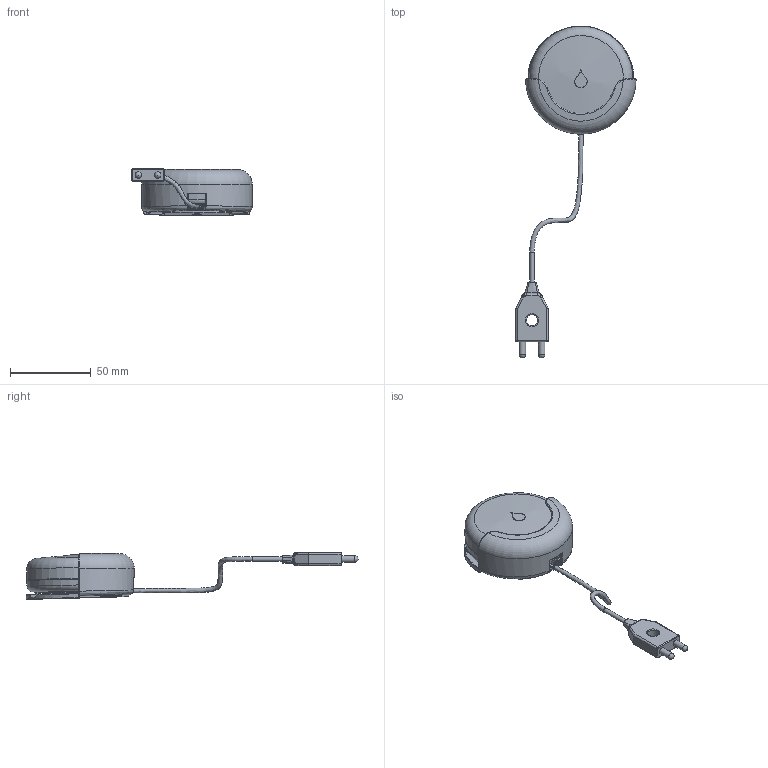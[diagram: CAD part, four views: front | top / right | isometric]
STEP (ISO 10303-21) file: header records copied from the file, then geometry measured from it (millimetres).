
FILE_DESCRIPTION(/* description */ (''),/* implementation_level */ '2;1');
FILE_NAME(/* name */ 'CZ-01+kieszen.step',/* time_stamp */ '2026-04-22T07:17:42+02:00',/* author */ (''),/* organization */ (''),/* preprocessor_version */ 'ST-DEVELOPER v20.1',/* originating_system */ 'Autodesk Translation Framework v14.24.0.0',/* authorisation */ '');
FILE_SCHEMA (('AUTOMOTIVE_DESIGN { 1 0 10303 214 3 1 1 }'));
Length unit declared in the file: millimetre
Products named in the file (11): OP-1035_czujnik zalania+sonda_2021-09-23; Adapter_2021-07-09; Dół_4_2021-05-17; Góra_4_2021-05-18; Płytka_adapter_2021-07--12; Złączka_wago; Sonda_mini; BP18402; Podwujne AAA (KEYS5214); Battery - Duracell AAA v1; Antenka
Assembly tree (14 placements, depth 2):
  OP-1035_czujnik zalania+sonda_2021-09-23
    Adapter_2021-07-09
    Dół_4_2021-05-17
    Góra_4_2021-05-18
    BP18402  x4
    Płytka_adapter_2021-07--12
    Złączka_wago
    Sonda_mini
    Podwujne AAA (KEYS5214)
    Battery - Duracell AAA v1  x2
    Antenka
Bounding box: 74.44 x 205.57 x 28.99 mm (x, y, z)
Volume: 44185.3 mm3; surface area: 48673.2 mm2
Topology: 14 solids, 14 shells, 2003 faces, 5167 edges, 3329 vertices
Faces by surface type: plane 829, bspline 643, cylinder 351, torus 82, cone 56, sphere 42
Full cylindrical faces by diameter (mm): 0.27 x1, 0.594 x1, 1.2 x2, 1.5 x8, 2 x2, 2.5 x4, 2.8 x1, 3 x4, 3.8 x2, 3.814 x4, 4 x2, 7.035 x1, 8.1 x4, 10.5 x2, 23 x1, 25 x1
Entity records: 79198 total; most frequent: CARTESIAN_POINT 34757, ORIENTED_EDGE 9940, DIRECTION 7749, EDGE_CURVE 4970, VERTEX_POINT 3215, AXIS2_PLACEMENT_3D 2647, LINE 2455, VECTOR 2455
